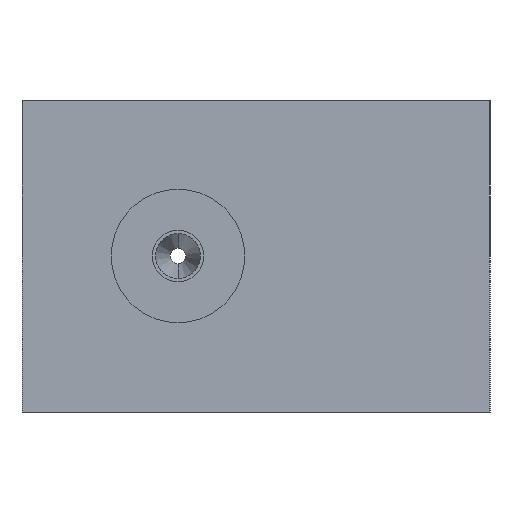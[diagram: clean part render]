
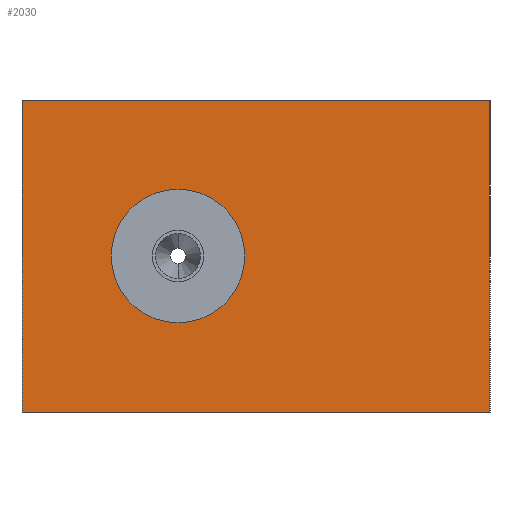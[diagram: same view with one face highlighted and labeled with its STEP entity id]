
A CAD part, left-side view. The second image highlights one B-rep face of the part: STEP entity #2030.
In plain terms, the highlighted planar face has unit normal (-1, 0, 0).
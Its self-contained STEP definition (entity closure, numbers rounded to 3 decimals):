
#266 = AXIS2_PLACEMENT_3D ( 'NONE', #2292, #2369, #2368 ) ;
#289 = AXIS2_PLACEMENT_3D ( 'NONE', #2473, #2469, #2452 ) ;
#375 = EDGE_CURVE ( 'NONE', #5916, #5943, #5996, .T. ) ;
#399 = EDGE_CURVE ( 'NONE', #5916, #5974, #3975, .T. ) ;
#408 = EDGE_CURVE ( 'NONE', #5905, #5882, #3939, .T. ) ;
#418 = EDGE_CURVE ( 'NONE', #5943, #5954, #3962, .T. ) ;
#433 = EDGE_CURVE ( 'NONE', #5882, #5905, #4005, .T. ) ;
#459 = EDGE_CURVE ( 'NONE', #5974, #5954, #4030, .T. ) ;
#673 = EDGE_LOOP ( 'NONE', ( #895, #980, #1013, #974 ) ) ;
#678 = EDGE_LOOP ( 'NONE', ( #1016, #969 ) ) ;
#895 = ORIENTED_EDGE ( 'NONE', *, *, #459, .T. ) ;
#969 = ORIENTED_EDGE ( 'NONE', *, *, #408, .F. ) ;
#974 = ORIENTED_EDGE ( 'NONE', *, *, #399, .T. ) ;
#980 = ORIENTED_EDGE ( 'NONE', *, *, #418, .F. ) ;
#1013 = ORIENTED_EDGE ( 'NONE', *, *, #375, .F. ) ;
#1016 = ORIENTED_EDGE ( 'NONE', *, *, #433, .F. ) ;
#2030 = ADVANCED_FACE ( 'NONE', ( #3915, #3906 ), #5030, .F. ) ;
#2278 = CARTESIAN_POINT ( 'NONE',  ( 0., 0., 10. ) ) ;
#2287 = DIRECTION ( 'NONE',  ( 0., -1., 0. ) ) ;
#2292 = CARTESIAN_POINT ( 'NONE',  ( 0., 20., 0. ) ) ;
#2297 = CARTESIAN_POINT ( 'NONE',  ( 0., 30., 10. ) ) ;
#2312 = DIRECTION ( 'NONE',  ( 0., 0., -1. ) ) ;
#2352 = DIRECTION ( 'NONE',  ( 0., 0., -1. ) ) ;
#2361 = CARTESIAN_POINT ( 'NONE',  ( 0., 0., 10. ) ) ;
#2368 = DIRECTION ( 'NONE',  ( 0., 0., 1. ) ) ;
#2369 = DIRECTION ( 'NONE',  ( -1., 0., 0. ) ) ;
#2452 = DIRECTION ( 'NONE',  ( 0., 0., 1. ) ) ;
#2469 = DIRECTION ( 'NONE',  ( -1., 0., 0. ) ) ;
#2473 = CARTESIAN_POINT ( 'NONE',  ( 0., 20., 0. ) ) ;
#2500 = CARTESIAN_POINT ( 'NONE',  ( 0., 0., -10. ) ) ;
#2554 = DIRECTION ( 'NONE',  ( 0., -1., 0. ) ) ;
#3906 = FACE_BOUND ( 'NONE', #678, .T. ) ;
#3915 = FACE_OUTER_BOUND ( 'NONE', #673, .T. ) ;
#3939 = CIRCLE ( 'NONE', #266, 4.28 ) ;
#3962 = LINE ( 'NONE', #2361, #4018 ) ;
#3970 = VECTOR ( 'NONE', #2312, 1000. ) ;
#3975 = LINE ( 'NONE', #2297, #3970 ) ;
#4005 = CIRCLE ( 'NONE', #289, 4.28 ) ;
#4018 = VECTOR ( 'NONE', #2352, 1000. ) ;
#4030 = LINE ( 'NONE', #2500, #4038 ) ;
#4038 = VECTOR ( 'NONE', #2554, 1000. ) ;
#4501 = AXIS2_PLACEMENT_3D ( 'NONE', #5031, #5004, #5006 ) ;
#5004 = DIRECTION ( 'NONE',  ( 1., 0., 0. ) ) ;
#5006 = DIRECTION ( 'NONE',  ( 0., 0., -1. ) ) ;
#5030 = PLANE ( 'NONE',  #4501 ) ;
#5031 = CARTESIAN_POINT ( 'NONE',  ( 0., 0., 10. ) ) ;
#5183 = CARTESIAN_POINT ( 'NONE',  ( 0., 20., 4.28 ) ) ;
#5211 = CARTESIAN_POINT ( 'NONE',  ( 0., 30., 10. ) ) ;
#5216 = CARTESIAN_POINT ( 'NONE',  ( 0., 20., -4.28 ) ) ;
#5261 = CARTESIAN_POINT ( 'NONE',  ( 0., 0., 10. ) ) ;
#5286 = CARTESIAN_POINT ( 'NONE',  ( 0., 0., -10. ) ) ;
#5296 = CARTESIAN_POINT ( 'NONE',  ( 0., 30., -10. ) ) ;
#5882 = VERTEX_POINT ( 'NONE', #5183 ) ;
#5905 = VERTEX_POINT ( 'NONE', #5216 ) ;
#5916 = VERTEX_POINT ( 'NONE', #5211 ) ;
#5943 = VERTEX_POINT ( 'NONE', #5261 ) ;
#5954 = VERTEX_POINT ( 'NONE', #5286 ) ;
#5974 = VERTEX_POINT ( 'NONE', #5296 ) ;
#5992 = VECTOR ( 'NONE', #2287, 1000. ) ;
#5996 = LINE ( 'NONE', #2278, #5992 ) ;
